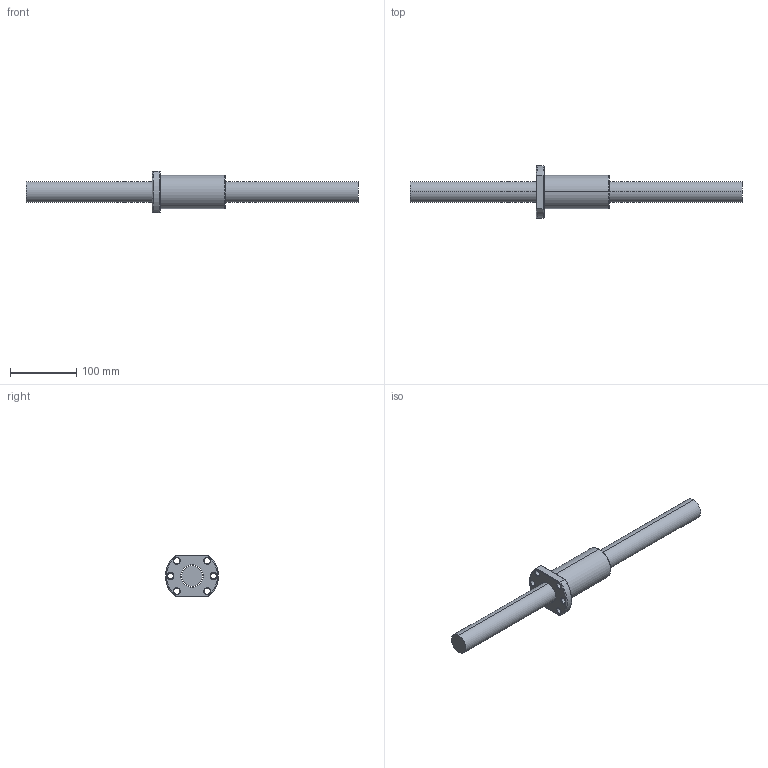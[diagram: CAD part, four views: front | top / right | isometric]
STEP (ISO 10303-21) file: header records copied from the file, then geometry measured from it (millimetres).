
FILE_DESCRIPTION (( 'STEP AP203' ), '1' );
FILE_NAME ('SFA3232-2.8.STEP', '2024-08-13T02:03:30', ( '' ), ( '' ), 'SwSTEP 2.0', 'SolidWorks 2022', '' );
FILE_SCHEMA (( 'CONFIG_CONTROL_DESIGN' ));
Length unit declared in the file: millimetre
Products named in the file (1): SFA3232-2.8
Bounding box: 500 x 79.74 x 62 mm (x, y, z)
Volume: 519112.7 mm3; surface area: 88274.2 mm2
Topology: 2 solids, 2 shells, 85 faces, 218 edges, 138 vertices
Faces by surface type: cylinder 35, cone 26, plane 12, bspline 6, torus 6
Entity records: 5520 total; most frequent: CARTESIAN_POINT 3441, ORIENTED_EDGE 436, DIRECTION 403, EDGE_CURVE 218, AXIS2_PLACEMENT_3D 164, VERTEX_POINT 138, EDGE_LOOP 102, FACE_OUTER_BOUND 85
